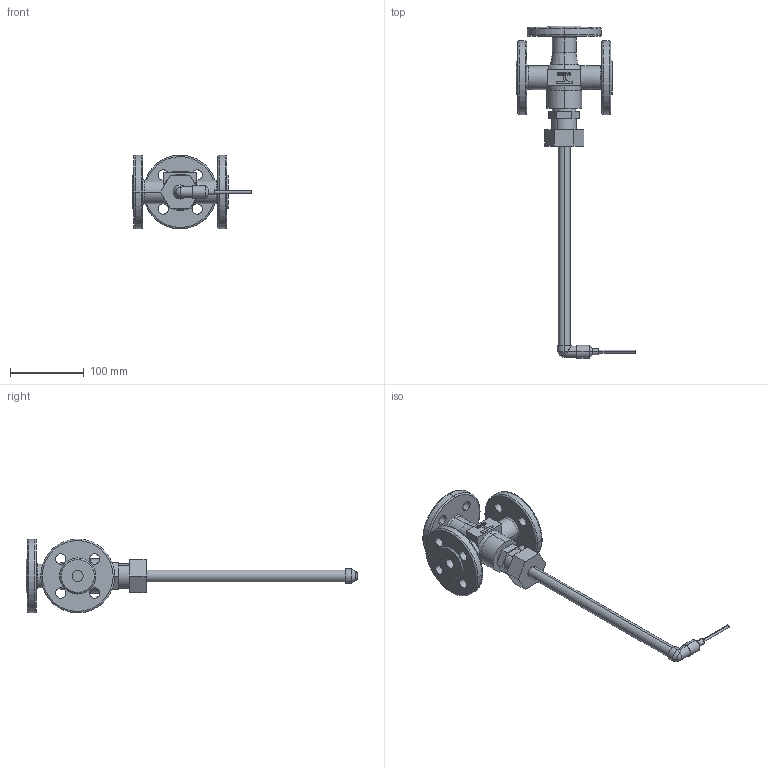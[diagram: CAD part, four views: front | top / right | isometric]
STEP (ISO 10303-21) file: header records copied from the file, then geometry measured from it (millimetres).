
FILE_DESCRIPTION (( 'STEP AP203' ), '1' );
FILE_NAME ('2713_2118_3M_DIN_015_016_EN-JL1040_B1_std_2233.STEP', '2010-09-14T08:15:54', ( '' ), ( '' ), 'SwSTEP 2.0', 'SolidWorks 2006303', '' );
FILE_SCHEMA (( 'CONFIG_CONTROL_DESIGN' ));
Length unit declared in the file: millimetre
Products named in the file (7): 2713_2118_3M_DIN_015_016_EN-JL1040_B1_std_Standard; 2713_2118_3M_DIN_015_016_EN-JL1040_B1_std_2233; Thermostat_Typ2233_TL430_d25_Standard; Thermostat_Typ2233_Teil02_ohne Verlängerung_Standard; Rohr02_Standard; Führungsnippel_02302961_02302962_Standard; Gehäuse_2713_3M_DIN_015_016_EN-JL1040_B1_01022269_Standard
Assembly tree (6 placements, depth 3):
  2713_2118_3M_DIN_015_016_EN-JL1040_B1_std_2233
    2713_2118_3M_DIN_015_016_EN-JL1040_B1_std_Standard
      Führungsnippel_02302961_02302962_Standard
      Gehäuse_2713_3M_DIN_015_016_EN-JL1040_B1_01022269_Standard
    Thermostat_Typ2233_TL430_d25_Standard
      Thermostat_Typ2233_Teil02_ohne Verlängerung_Standard
      Rohr02_Standard
Bounding box: 162 x 449.68 x 100 mm (x, y, z)
Volume: 590893.1 mm3; surface area: 115747 mm2
Topology: 4 solids, 4 shells, 274 faces, 678 edges, 439 vertices
Faces by surface type: plane 92, bspline 72, cylinder 70, torus 22, cone 17, sphere 1
Entity records: 11519 total; most frequent: CARTESIAN_POINT 4557, ORIENTED_EDGE 1356, DIRECTION 1152, EDGE_CURVE 678, VERTEX_POINT 439, AXIS2_PLACEMENT_3D 416, EDGE_LOOP 325, VECTOR 320
